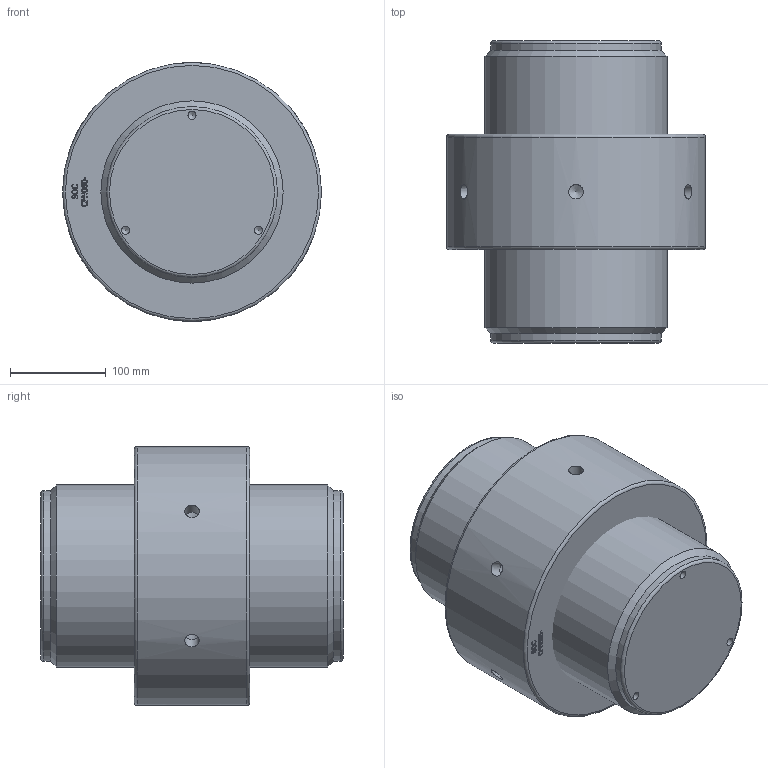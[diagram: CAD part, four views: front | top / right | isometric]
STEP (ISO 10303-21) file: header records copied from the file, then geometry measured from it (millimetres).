
FILE_DESCRIPTION(/* description */ (''),/* implementation_level */ '2;1');
FILE_NAME(/* name */ 'F:\Clienti LS\Redaelli\CYT\CYT\ARRNGEMENT\CYT060 61 061 0.stp',/* time_stamp */ '2021-05-09T08:47:37+02:00',/* author */ ('ranca'),/* organization */ (''),/* preprocessor_version */ 'ST-DEVELOPER v16.13',/* originating_system */ 'Autodesk Inventor 2018',/* authorisation */ '');
FILE_SCHEMA (('AUTOMOTIVE_DESIGN { 1 0 10303 214 3 1 1 }'));
Length unit declared in the file: millimetre
Products named in the file (3): CYT012-61-061-0; CYT012-61-061-0_1; CYT012-61-061-0_DADO
Assembly tree (2 placements, depth 2):
  CYT012-61-061-0
    CYT012-61-061-0_1
    CYT012-61-061-0_DADO
Bounding box: 270 x 315 x 270 mm (x, y, z)
Volume: 12585016.4 mm3; surface area: 475470.4 mm2
Topology: 2 solids, 2 shells, 348 faces, 944 edges, 628 vertices
Faces by surface type: bspline 210, plane 109, cylinder 14, cone 11, torus 4
Full cylindrical faces by diameter (mm): 8.376 x3, 15 x6, 178 x2, 181.34 x1, 190 x1, 270 x1
Entity records: 12006 total; most frequent: CARTESIAN_POINT 4804, ORIENTED_EDGE 1798, EDGE_CURVE 899, DIRECTION 779, VERTEX_POINT 612, LINE 441, VECTOR 441, B_SPLINE_CURVE_WITH_KNOTS 432
